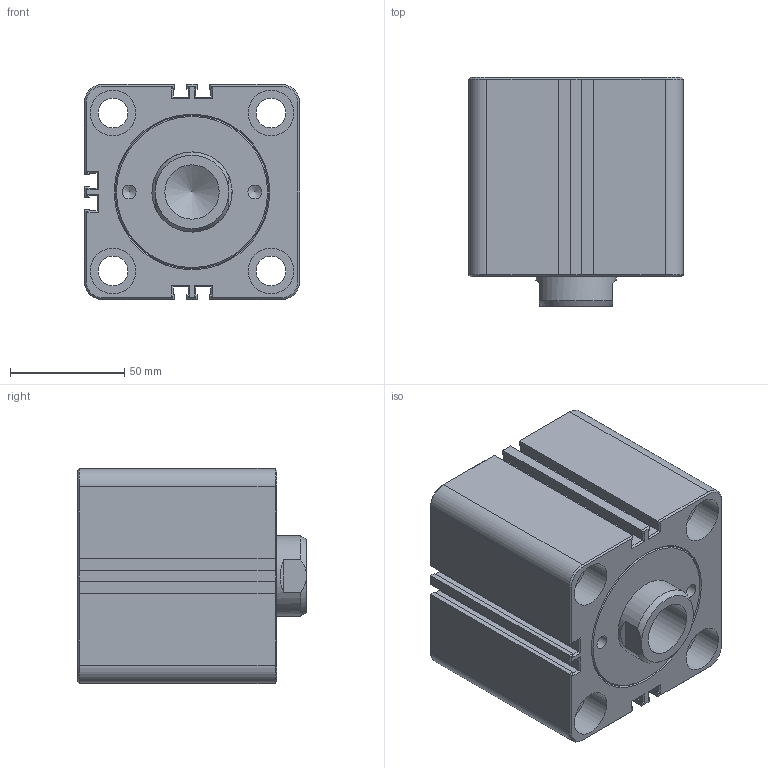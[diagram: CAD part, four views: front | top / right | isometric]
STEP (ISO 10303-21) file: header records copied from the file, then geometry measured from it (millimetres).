
FILE_DESCRIPTION(/* description */ ('Unknown'),/* implementation_level */ '2;1');
FILE_NAME(/* name */ 'HTM70-SD63X20N',/* time_stamp */ '2022-08-31T02:50:13+08:00',/* author */ ('Unknown'),/* organization */ ('Unknown'),/* preprocessor_version */ 'ST-DEVELOPER v16.7',/* originating_system */ 'DEX',/* authorisation */ $);
FILE_SCHEMA (('AUTOMOTIVE_DESIGN {1 0 10303 214 3 1 1}'));
Length unit declared in the file: millimetre
Products named in the file (1): HTM70-SD63X20N
Bounding box: 94 x 100 x 94 mm (x, y, z)
Volume: 670811.7 mm3; surface area: 76570.6 mm2
Topology: 1 solids, 1 shells, 235 faces, 540 edges, 321 vertices
Faces by surface type: plane 176, cone 24, cylinder 23, bspline 12
Full cylindrical faces by diameter (mm): 6 x1, 6.1 x2, 13 x4, 15.806 x2, 20 x8, 23.752 x1, 35 x1
Entity records: 8001 total; most frequent: CARTESIAN_POINT 1285, ORIENTED_EDGE 1002, DIRECTION 992, EDGE_CURVE 501, LINE 390, VECTOR 390, VERTEX_POINT 312, AXIS2_PLACEMENT_3D 301
